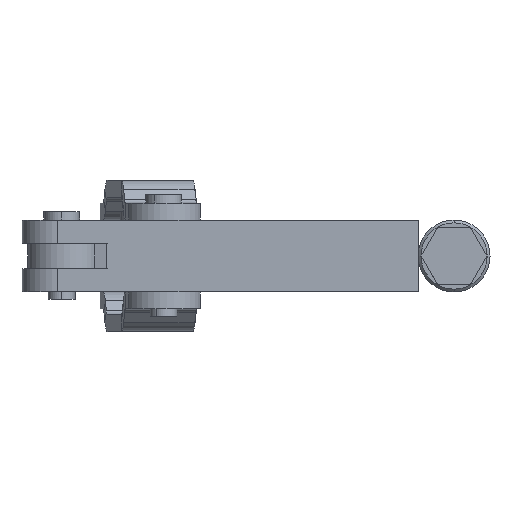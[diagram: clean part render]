
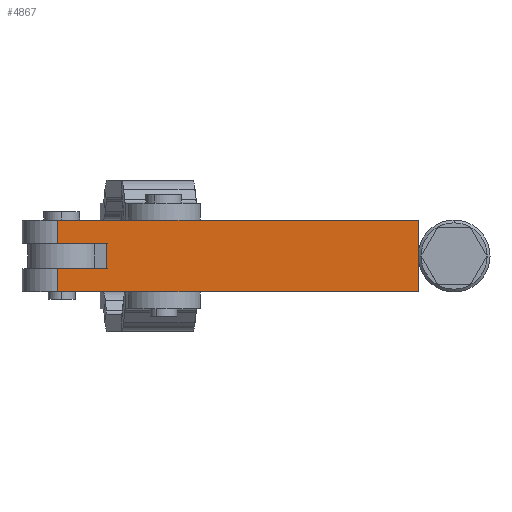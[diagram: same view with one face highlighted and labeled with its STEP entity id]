
A CAD part, front view. The second image highlights one B-rep face of the part: STEP entity #4867.
In plain terms, the highlighted planar face has unit normal (0, -1, 0).
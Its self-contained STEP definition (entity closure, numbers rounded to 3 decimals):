
#290 = DIRECTION ( 'NONE',  ( 0., 0., -1. ) ) ;
#303 = CARTESIAN_POINT ( 'NONE',  ( -6.35, -6.35, 6.35 ) ) ;
#314 = CARTESIAN_POINT ( 'NONE',  ( -70., -6.35, 6.35 ) ) ;
#315 = DIRECTION ( 'NONE',  ( 1., 0., 0. ) ) ;
#351 = LINE ( 'NONE', #353, #4548 ) ;
#352 = DIRECTION ( 'NONE',  ( 1., 0., 0. ) ) ;
#353 = CARTESIAN_POINT ( 'NONE',  ( -15., -6.35, -2.25 ) ) ;
#355 = DIRECTION ( 'NONE',  ( 0., 0., 1. ) ) ;
#356 = LINE ( 'NONE', #358, #4547 ) ;
#358 = CARTESIAN_POINT ( 'NONE',  ( -15., -6.35, -2.25 ) ) ;
#359 = DIRECTION ( 'NONE',  ( 1., 0., 0. ) ) ;
#361 = CARTESIAN_POINT ( 'NONE',  ( -15., -6.35, 2.25 ) ) ;
#365 = DIRECTION ( 'NONE',  ( 1., 0., 0. ) ) ;
#366 = CARTESIAN_POINT ( 'NONE',  ( -70., -6.35, 6.35 ) ) ;
#367 = LINE ( 'NONE', #361, #4546 ) ;
#368 = LINE ( 'NONE', #303, #4545 ) ;
#369 = LINE ( 'NONE', #366, #4544 ) ;
#370 = DIRECTION ( 'NONE',  ( 0., 0., -1. ) ) ;
#374 = CARTESIAN_POINT ( 'NONE',  ( -70., -6.35, -6.35 ) ) ;
#376 = LINE ( 'NONE', #374, #4542 ) ;
#380 = DIRECTION ( 'NONE',  ( 0., 0., -1. ) ) ;
#383 = LINE ( 'NONE', #314, #4538 ) ;
#396 = CARTESIAN_POINT ( 'NONE',  ( -6.35, -6.35, 6.35 ) ) ;
#405 = LINE ( 'NONE', #396, #4540 ) ;
#1302 = CARTESIAN_POINT ( 'NONE',  ( -6.35, -6.35, -2.25 ) ) ;
#1312 = CARTESIAN_POINT ( 'NONE',  ( -15., -6.35, -2.25 ) ) ;
#1314 = CARTESIAN_POINT ( 'NONE',  ( -15., -6.35, 2.25 ) ) ;
#1315 = CARTESIAN_POINT ( 'NONE',  ( -6.35, -6.35, 6.35 ) ) ;
#1322 = CARTESIAN_POINT ( 'NONE',  ( -70., -6.35, 6.35 ) ) ;
#1415 = CARTESIAN_POINT ( 'NONE',  ( -70., -6.35, -6.35 ) ) ;
#1416 = CARTESIAN_POINT ( 'NONE',  ( -6.35, -6.35, 2.25 ) ) ;
#1419 = CARTESIAN_POINT ( 'NONE',  ( -6.35, -6.35, -6.35 ) ) ;
#1983 = EDGE_LOOP ( 'NONE', ( #2062, #2061, #2060, #2059, #2058, #2057, #2056, #2055 ) ) ;
#2055 = ORIENTED_EDGE ( 'NONE', *, *, #3228, .F. ) ;
#2056 = ORIENTED_EDGE ( 'NONE', *, *, #3229, .T. ) ;
#2057 = ORIENTED_EDGE ( 'NONE', *, *, #3230, .T. ) ;
#2058 = ORIENTED_EDGE ( 'NONE', *, *, #3231, .F. ) ;
#2059 = ORIENTED_EDGE ( 'NONE', *, *, #3232, .F. ) ;
#2060 = ORIENTED_EDGE ( 'NONE', *, *, #3233, .T. ) ;
#2061 = ORIENTED_EDGE ( 'NONE', *, *, #3234, .T. ) ;
#2062 = ORIENTED_EDGE ( 'NONE', *, *, #3235, .F. ) ;
#2388 = VERTEX_POINT ( 'NONE', #1419 ) ;
#2396 = VERTEX_POINT ( 'NONE', #1415 ) ;
#2397 = VERTEX_POINT ( 'NONE', #1416 ) ;
#2437 = VERTEX_POINT ( 'NONE', #1314 ) ;
#2438 = VERTEX_POINT ( 'NONE', #1322 ) ;
#2442 = VERTEX_POINT ( 'NONE', #1312 ) ;
#2443 = VERTEX_POINT ( 'NONE', #1315 ) ;
#2446 = VERTEX_POINT ( 'NONE', #1302 ) ;
#3228 = EDGE_CURVE ( 'NONE', #2446, #2388, #405, .T. ) ;
#3229 = EDGE_CURVE ( 'NONE', #2396, #2388, #376, .T. ) ;
#3230 = EDGE_CURVE ( 'NONE', #2438, #2396, #383, .T. ) ;
#3231 = EDGE_CURVE ( 'NONE', #2438, #2443, #369, .T. ) ;
#3232 = EDGE_CURVE ( 'NONE', #2443, #2397, #368, .T. ) ;
#3233 = EDGE_CURVE ( 'NONE', #2437, #2397, #367, .T. ) ;
#3234 = EDGE_CURVE ( 'NONE', #2442, #2437, #356, .T. ) ;
#3235 = EDGE_CURVE ( 'NONE', #2442, #2446, #351, .T. ) ;
#4538 = VECTOR ( 'NONE', #370, 1000. ) ;
#4540 = VECTOR ( 'NONE', #380, 1000. ) ;
#4542 = VECTOR ( 'NONE', #315, 1000. ) ;
#4544 = VECTOR ( 'NONE', #365, 1000. ) ;
#4545 = VECTOR ( 'NONE', #290, 1000. ) ;
#4546 = VECTOR ( 'NONE', #359, 1000. ) ;
#4547 = VECTOR ( 'NONE', #355, 1000. ) ;
#4548 = VECTOR ( 'NONE', #352, 1000. ) ;
#4704 = AXIS2_PLACEMENT_3D ( 'NONE', #5314, #5321, #5322 ) ;
#4867 = ADVANCED_FACE ( 'NONE', ( #5317 ), #5318, .F. ) ;
#5314 = CARTESIAN_POINT ( 'NONE',  ( -70., -6.35, 6.35 ) ) ;
#5317 = FACE_OUTER_BOUND ( 'NONE', #1983, .T. ) ;
#5318 = PLANE ( 'NONE',  #4704 ) ;
#5321 = DIRECTION ( 'NONE',  ( 0., 1., 0. ) ) ;
#5322 = DIRECTION ( 'NONE',  ( 0., 0., 1. ) ) ;
